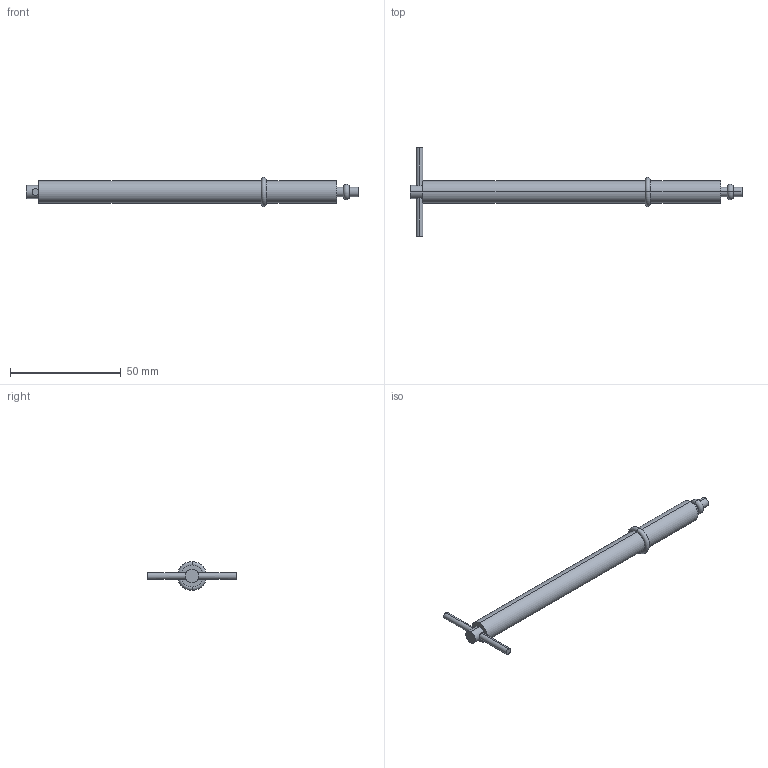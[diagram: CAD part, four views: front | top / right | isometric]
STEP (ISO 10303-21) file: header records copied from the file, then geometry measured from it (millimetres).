
FILE_DESCRIPTION (( 'STEP AP214' ), '1' );
FILE_NAME ('BRWV-110.STEP', '2020-06-23T10:50:36', ( '' ), ( '' ), 'SwSTEP 2.0', 'SolidWorks 2018', '' );
FILE_SCHEMA (( 'AUTOMOTIVE_DESIGN' ));
Length unit declared in the file: millimetre
Products named in the file (1): BRWV-110
Bounding box: 150 x 40 x 13.13 mm (x, y, z)
Volume: 11123.7 mm3; surface area: 5270.6 mm2
Topology: 1 solids, 1 shells, 27 faces, 52 edges, 32 vertices
Faces by surface type: cylinder 16, plane 7, torus 4
Entity records: 820 total; most frequent: CARTESIAN_POINT 212, DIRECTION 136, ORIENTED_EDGE 104, AXIS2_PLACEMENT_3D 60, EDGE_CURVE 52, CIRCLE 32, EDGE_LOOP 32, VERTEX_POINT 32
